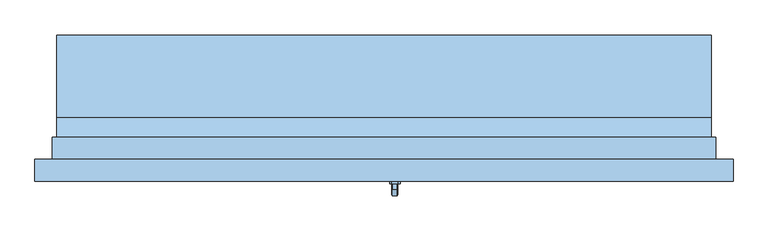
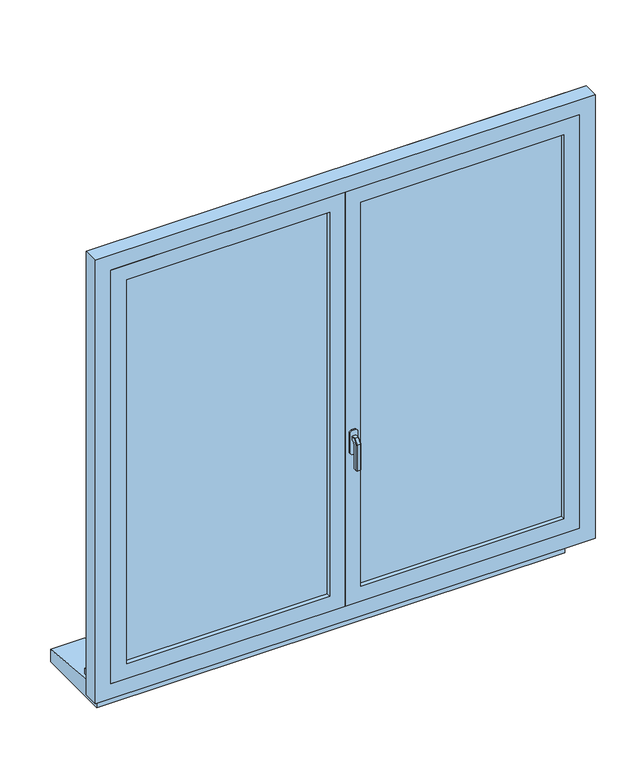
"""IFC4 building model written with IfcOpenShell, lengths in millimetres: window geometry, 2 Vantaux - Droits : 1.50m x 1.45m - Appui Béton."""

from ifc_helpers import new_model, si_unit, frame, origin, place, context, project, spatial, polyline, outline, extrude, faceted_brep, source, transform, mapped, element, save


def window_4dd6e4df(model_context):
    return source(origin(), model_context, "Body", "SolidModel", [
        faceted_brep([(30.6460097, -166.0, 1422.0339292), (32.0339292, -166.0, 1420.6460097), (32.0339292, -166.0, 1409.3323012), (30.6676988, -166.0, 1407.9660708), (19.3323012, -166.0, 1407.9660708), (17.9660708, -166.0, 1409.3323012), (17.9660708, -166.0, 1420.6460097), (19.3539903, -166.0, 1422.0339292), (30.6460097, -178.9135489, 1422.0339292), (32.0339292, -178.3386538, 1420.6460097), (32.0339292, -191.6460097, 1407.3386538), (32.0339292, -191.6460097, 1320.0), (32.0339292, -180.3323012, 1320.0), (32.0339292, -180.3323012, 1402.6523623), (32.0339292, -173.6523623, 1409.3323012), (30.6676988, -173.0864511, 1407.9660708), (19.3323012, -173.0864511, 1407.9660708), (17.9660708, -173.6523623, 1409.3323012), (17.9660708, -180.3323012, 1402.6523623), (17.9660708, -180.3323012, 1320.0), (17.9660708, -191.6460097, 1320.0), (17.9660708, -191.6460097, 1407.3386538), (17.9660708, -178.3386538, 1420.6460097), (19.3539903, -178.9135489, 1422.0339292), (30.6460097, -193.0339292, 1407.9135489), (30.6676988, -178.9660708, 1402.0864511), (19.3323012, -178.9660708, 1402.0864511), (19.3539903, -193.0339292, 1407.9135489), (30.6460097, -193.0339292, 1320.0), (19.3539903, -193.0339292, 1320.0), (19.3323012, -178.9660708, 1320.0), (30.6676988, -178.9660708, 1320.0)], [[[0, 1, 2, 3, 4, 5, 6, 7]], [[1, 0, 8, 9]], [[2, 1, 9, 10, 11, 12, 13, 14]], [[3, 2, 14, 15]], [[4, 3, 15, 16]], [[5, 4, 16, 17]], [[6, 5, 17, 18, 19, 20, 21, 22]], [[7, 6, 22, 23]], [[0, 7, 23, 8]], [[9, 8, 24, 10]], [[15, 14, 13, 25]], [[16, 15, 25, 26]], [[17, 16, 26, 18]], [[23, 22, 21, 27]], [[8, 23, 27, 24]], [[28, 29, 20, 19, 30, 31, 12, 11]], [[10, 24, 28, 11]], [[25, 13, 12, 31]], [[26, 25, 31, 30]], [[18, 26, 30, 19]], [[27, 21, 20, 29]], [[24, 27, 29, 28]]]),
        extrude(outline(polyline([(1440.0, 32.0), (1440.0, 18.0), (1435.0, 13.0), (1365.0, 13.0), (1360.0, 18.0), (1360.0, 32.0), (1365.0, 37.0), (1435.0, 37.0), (1440.0, 32.0)])), frame((0.0, -166.0, 0.0), z_axis=(0.0, 1.0, 0.0), x_axis=(0.0, 0.0, 1.0)), (0.0, 0.0, 1.0), 6.0),
        extrude(outline(polyline([(-80.0, 800.0), (-30.0, 800.0), (-30.0, 785.0), (175.0, 763.4536318), (175.0, 720.0), (-80.0, 720.0), (-80.0, 800.0)])), frame((-750.0, 0.0, 0.0), z_axis=(1.0, 0.0, 0.0), x_axis=(0.0, 1.0, 0.0)), (0.0, 0.0, 1.0), 1500.0),
        extrude(outline(polyline([(850.0, 0.0), (2250.0, 0.0), (2250.0, -750.0), (850.0, -750.0), (850.0, 0.0)]), holes=[polyline([(900.0, -700.0), (2200.0, -700.0), (2200.0, -50.0), (900.0, -50.0), (900.0, -700.0)])]), frame((0.0, -160.0, 0.0), z_axis=(0.0, 1.0, 0.0), x_axis=(0.0, 0.0, 1.0)), (0.0, 0.0, 1.0), 40.0),
        extrude(outline(polyline([(50.0, -134.0), (700.0, -134.0), (700.0, -146.0), (50.0, -146.0), (50.0, -134.0)])), frame((0.0, 0.0, 900.0), z_axis=(0.0, 0.0, 1.0), x_axis=(1.0, 0.0, 0.0)), (0.0, 0.0, 1.0), 1300.0),
        extrude(outline(polyline([(-700.0, -134.0), (-50.0, -134.0), (-50.0, -146.0), (-700.0, -146.0), (-700.0, -134.0)])), frame((0.0, 0.0, 900.0), z_axis=(0.0, 0.0, 1.0), x_axis=(1.0, 0.0, 0.0)), (0.0, 0.0, 1.0), 1300.0),
        extrude(outline(polyline([(850.0, 750.0), (2250.0, 750.0), (2250.0, 0.0), (850.0, 0.0), (850.0, 750.0)]), holes=[polyline([(900.0, 50.0), (2200.0, 50.0), (2200.0, 700.0), (900.0, 700.0), (900.0, 50.0)])]), frame((0.0, -160.0, 0.0), z_axis=(0.0, 1.0, 0.0), x_axis=(0.0, 0.0, 1.0)), (0.0, 0.0, 1.0), 40.0),
        faceted_brep([(-800.0, -160.0, 800.0), (-800.0, -110.0, 800.0), (-750.0, -110.0, 800.0), (-750.0, -25.0, 800.0), (750.0, -25.0, 800.0), (750.0, -110.0, 800.0), (800.0, -110.0, 800.0), (800.0, -160.0, 800.0), (-800.0, -160.0, 2300.0), (-800.0, -110.0, 2300.0), (800.0, -110.0, 2300.0), (750.0, -110.0, 839.3761425), (-750.0, -110.0, 839.3761425), (-735.0, -110.0, 2235.0), (-735.0, -110.0, 865.0), (735.0, -110.0, 865.0), (735.0, -110.0, 2235.0), (-750.0, -15.0, 813.9209692), (-750.0, -15.0, 795.0), (-750.0, -25.0, 795.0), (750.0, -25.0, 795.0), (750.0, -15.0, 795.0), (750.0, -15.0, 813.9209692), (800.0, -160.0, 2300.0), (750.0, -160.0, 2250.0), (750.0, -160.0, 850.0), (-750.0, -160.0, 850.0), (-750.0, -160.0, 2250.0), (-735.0, -120.0, 2235.0), (-735.0, -120.0, 865.0), (735.0, -120.0, 865.0), (735.0, -120.0, 2235.0), (750.0, -120.0, 2250.0), (-750.0, -120.0, 2250.0), (-750.0, -120.0, 850.0), (750.0, -120.0, 850.0)], [[[0, 1, 2, 3, 4, 5, 6, 7]], [[1, 0, 8, 9]], [[1, 9, 10, 6, 5, 11, 12, 2], [13, 14, 15, 16]], [[12, 17, 18, 19, 3, 2]], [[3, 19, 20, 4]], [[4, 20, 21, 22, 11, 5]], [[6, 10, 23, 7]], [[0, 7, 23, 8], [24, 25, 26, 27]], [[13, 28, 29, 14]], [[29, 30, 15, 14]], [[31, 16, 15, 30]], [[17, 12, 11, 22]], [[32, 33, 34, 35], [28, 31, 30, 29]], [[34, 33, 27, 26]], [[26, 25, 35, 34]], [[24, 32, 35, 25]], [[18, 17, 22, 21]], [[19, 18, 21, 20]], [[13, 16, 31, 28]], [[33, 32, 24, 27]], [[10, 9, 8, 23]]]),
        extrude(outline(polyline([(800.0, -760.0), (800.0, -750.0), (2250.0, -750.0), (2250.0, 750.0), (800.0, 750.0), (800.0, 760.0), (2260.0, 760.0), (2260.0, -760.0), (800.0, -760.0)])), frame((0.0, -110.0, 0.0), z_axis=(0.0, 1.0, 0.0), x_axis=(0.0, 0.0, 1.0)), (0.0, 0.0, 1.0), 50.0),
        extrude(outline(polyline([(20.0, -112.0), (20.0, -120.0), (-20.0, -120.0), (-20.0, -112.0), (20.0, -112.0)])), frame((0.0, 0.0, 865.0), z_axis=(0.0, 0.0, 1.0), x_axis=(1.0, 0.0, 0.0)), (0.0, 0.0, 1.0), 1370.0),
    ])


if __name__ == "__main__":
    model = new_model("IFC4")
    model_context = context("Model", 3, world=origin())
    ifc_project = project(units=[si_unit("LENGTHUNIT", "METRE", prefix="MILLI")], contexts=[model_context])
    site = spatial("IfcSite", under=ifc_project)
    building = spatial("IfcBuilding", under=site)
    placement = place(None, origin())
    window_shape = window_4dd6e4df(model_context)
    element("IfcWindow", 1, ObjectType="2 Vantaux - Droits : 1.50m x 1.45m - Appui Béton", at=placement, inside=building, context=model_context, shape_type="MappedRepresentation", body=[
        mapped(window_shape, transform((0.0, 0.0, 0.0), x_axis=(1.0, 0.0, 0.0), y_axis=(0.0, 1.0, 0.0), z_axis=(0.0, 0.0, 1.0))),
    ])
    save(model, "model.ifc")
